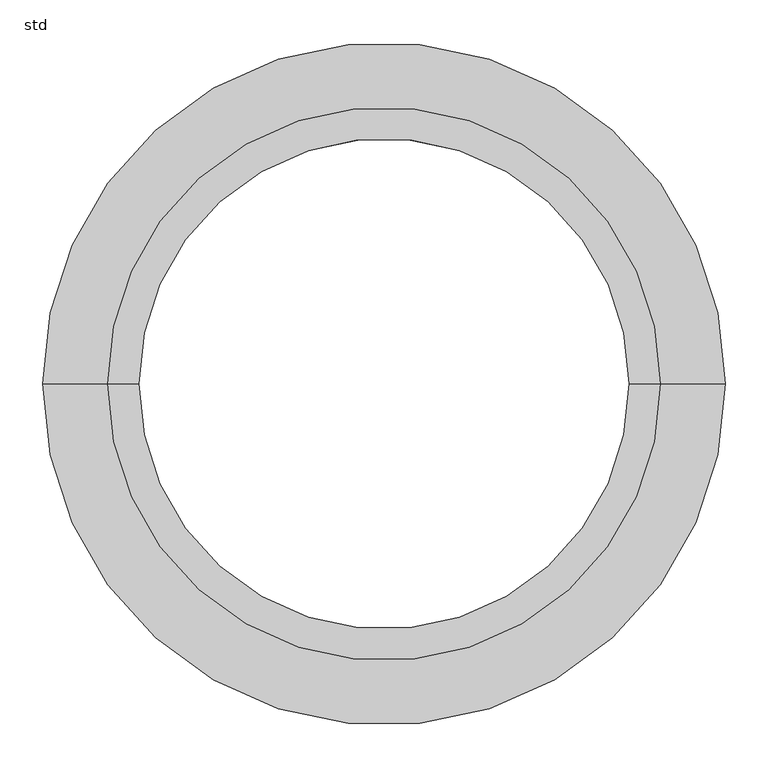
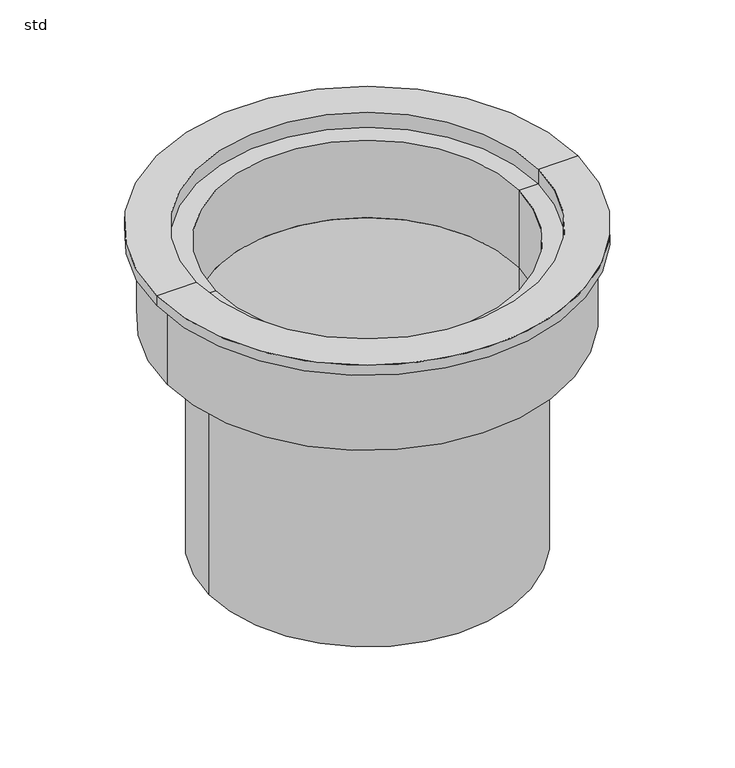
"""IFC4 building model written with IfcOpenShell, lengths in millimetres: pipe fitting geometry, Z_PIF_UN_Q-Bic_Plus_Telescopic_Frame_Wavin_(nested) : std."""

from ifc_helpers import new_model, si_unit, point, frame, origin, origin_with_axes, origin_2d, place, context, project, spatial, polyline, circle_curve, trimmed, segment, composite_curve, outline, extrude, source, transform, mapped, element, save
from ifc_brep_helpers import plane_surface, cylinder_surface, revolved_surface, advanced_brep


def std_ea1399cf(model_context):
    return source(origin(), model_context, "Body", "SolidModel", [
        extrude(outline(composite_curve([segment(trimmed(circle_curve(origin_2d(), 300.0), [point((-300.0, 0.0))], [point((300.0, 0.0))], False, "CARTESIAN"), True, "CONTINUOUS"), segment(trimmed(circle_curve(origin_2d(), 300.0), [point((300.0, 0.0))], [point((-300.0, 0.0))], False, "CARTESIAN"), True, "CONTINUOUS")], self_intersect=False), holes=[composite_curve([segment(trimmed(circle_curve(origin_2d(), 287.5), [point((-287.5, 0.0))], [point((287.5, 0.0))], True, "CARTESIAN"), True, "CONTINUOUS"), segment(trimmed(circle_curve(origin_2d(), 287.5), [point((287.5, 0.0))], [point((-287.5, 0.0))], True, "CARTESIAN"), True, "CONTINUOUS")], self_intersect=False)]), frame((0.0, 0.0, -635.0), z_axis=(0.0, 0.0, 1.0), x_axis=(1.0, 0.0, 0.0)), (0.0, 0.0, 1.0), 450.0),
        advanced_brep(
        [(-380.0, 0.0, -20.0), (380.0, 0.0, -20.0), (380.0, 0.0, -185.0), (-380.0, 0.0, -185.0), (-400.0, 0.0, -20.0), (400.0, 0.0, -20.0), (-400.0, 0.0, 0.0), (400.0, 0.0, 0.0), (-324.5, 0.0, 0.0), (324.5, 0.0, 0.0), (-324.5, 0.0, -30.0), (324.5, 0.0, -30.0), (-287.5, 0.0, -30.0), (287.5, 0.0, -30.0), (-287.5, 0.0, -185.0), (287.5, 0.0, -185.0)],
        [
            (0, 1, circle_curve(frame((0.0, 0.0, -20.0), z_axis=(0.0, 0.0, -1.0), x_axis=(1.0, 0.0, 0.0)), 380.0)),
            (1, 2),
            (2, 3, circle_curve(frame((0.0, 0.0, -185.0), z_axis=(0.0, 0.0, 1.0), x_axis=(1.0, 0.0, 0.0)), 380.0)),
            (3, 0),
            (1, 0, circle_curve(frame((0.0, 0.0, -20.0), z_axis=(0.0, 0.0, -1.0), x_axis=(1.0, 0.0, 0.0)), 380.0)),
            (3, 2, circle_curve(frame((0.0, 0.0, -185.0), z_axis=(0.0, 0.0, 1.0), x_axis=(1.0, 0.0, 0.0)), 380.0)),
            (4, 5, circle_curve(frame((0.0, 0.0, -20.0), z_axis=(0.0, 0.0, -1.0), x_axis=(1.0, 0.0, 0.0)), 400.0)),
            (5, 1),
            (0, 4),
            (5, 4, circle_curve(frame((0.0, 0.0, -20.0), z_axis=(0.0, 0.0, -1.0), x_axis=(1.0, 0.0, 0.0)), 400.0)),
            (6, 7, circle_curve(frame((0.0, 0.0, 0.0), z_axis=(0.0, 0.0, -1.0), x_axis=(1.0, 0.0, 0.0)), 400.0)),
            (7, 5),
            (4, 6),
            (7, 6, circle_curve(frame((0.0, 0.0, 0.0), z_axis=(0.0, 0.0, -1.0), x_axis=(1.0, 0.0, 0.0)), 400.0)),
            (8, 9, circle_curve(frame((0.0, 0.0, 0.0), z_axis=(0.0, 0.0, -1.0), x_axis=(1.0, 0.0, 0.0)), 324.5)),
            (9, 7),
            (6, 8),
            (9, 8, circle_curve(frame((0.0, 0.0, 0.0), z_axis=(0.0, 0.0, -1.0), x_axis=(1.0, 0.0, 0.0)), 324.5)),
            (10, 11, circle_curve(frame((0.0, 0.0, -30.0), z_axis=(0.0, 0.0, -1.0), x_axis=(1.0, 0.0, 0.0)), 324.5)),
            (11, 9),
            (8, 10),
            (11, 10, circle_curve(frame((0.0, 0.0, -30.0), z_axis=(0.0, 0.0, -1.0), x_axis=(1.0, 0.0, 0.0)), 324.5)),
            (12, 13, circle_curve(frame((0.0, 0.0, -30.0), z_axis=(0.0, 0.0, -1.0), x_axis=(1.0, 0.0, 0.0)), 287.5)),
            (13, 11),
            (10, 12),
            (13, 12, circle_curve(frame((0.0, 0.0, -30.0), z_axis=(0.0, 0.0, -1.0), x_axis=(1.0, 0.0, 0.0)), 287.5)),
            (14, 15, circle_curve(frame((0.0, 0.0, -185.0), z_axis=(0.0, 0.0, -1.0), x_axis=(1.0, 0.0, 0.0)), 287.5)),
            (15, 13),
            (12, 14),
            (15, 14, circle_curve(frame((0.0, 0.0, -185.0), z_axis=(0.0, 0.0, -1.0), x_axis=(1.0, 0.0, 0.0)), 287.5)),
            (2, 15),
            (14, 3),
        ],
        [
            cylinder_surface(frame((0.0, 0.0, -531.0), z_axis=(0.0, 0.0, 1.0), x_axis=(1.0, 0.0, 0.0)), 380.0),
            plane_surface(frame((0.0, 0.0, -20.0), z_axis=(0.0, 0.0, -1.0), x_axis=(1.0, 0.0, 0.0))),
            cylinder_surface(frame((0.0, 0.0, -531.0), z_axis=(0.0, 0.0, 1.0), x_axis=(1.0, 0.0, 0.0)), 400.0),
            plane_surface(origin_with_axes()),
            revolved_surface(polyline([(324.5, 0.0, 0.0), (324.5, 0.0, -30.0)]), (0.0, 0.0, -531.0), (0.0, 0.0, 1.0)),
            plane_surface(frame((0.0, 0.0, -30.0), z_axis=(0.0, 0.0, 1.0), x_axis=(1.0, 0.0, 0.0))),
            revolved_surface(polyline([(287.5, 0.0, -30.0), (287.5, 0.0, -185.0)]), (0.0, 0.0, -531.0), (0.0, 0.0, 1.0)),
            plane_surface(frame((0.0, 0.0, -185.0), z_axis=(0.0, 0.0, -1.0), x_axis=(1.0, 0.0, 0.0))),
        ],
        [
            (0, [[1, 2, 3, 4]]),
            (0, [[5, -4, 6, -2]]),
            (1, [[7, 8, -1, 9]]),
            (1, [[10, -9, -5, -8]]),
            (2, [[11, 12, -7, 13]]),
            (2, [[14, -13, -10, -12]]),
            (3, [[15, 16, -11, 17]]),
            (3, [[18, -17, -14, -16]]),
            (4, [[19, 20, -15, 21]]),
            (4, [[22, -21, -18, -20]]),
            (5, [[23, 24, -19, 25]]),
            (5, [[26, -25, -22, -24]]),
            (6, [[27, 28, -23, 29]]),
            (6, [[30, -29, -26, -28]]),
            (7, [[-3, 31, -27, 32]]),
            (7, [[-6, -32, -30, -31]]),
        ],
    ),
    ])


if __name__ == "__main__":
    model = new_model("IFC4")
    model_context = context("Model", 3, world=origin())
    ifc_project = project(units=[si_unit("LENGTHUNIT", "METRE", prefix="MILLI")], contexts=[model_context])
    site = spatial("IfcSite", under=ifc_project)
    building = spatial("IfcBuilding", under=site)
    placement = place(None, origin())
    std_shape = std_ea1399cf(model_context)
    element("IfcPipeFitting", 1, ObjectType="Z_PIF_UN_Q-Bic_Plus_Telescopic_Frame_Wavin_(nested) : std", at=placement, inside=building, context=model_context, shape_type="MappedRepresentation", body=[
        mapped(std_shape, transform((0.0, 0.0, 0.0), x_axis=(1.0, 0.0, 0.0), y_axis=(0.0, 1.0, 0.0), z_axis=(0.0, 0.0, 1.0))),
    ])
    save(model, "model.ifc")
